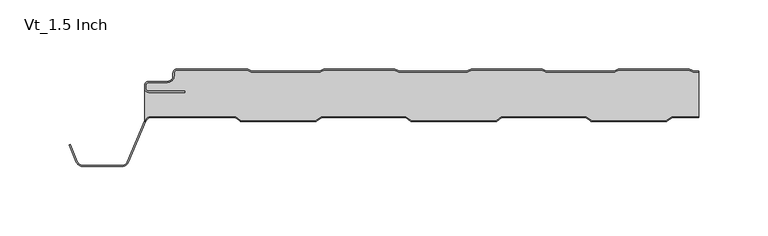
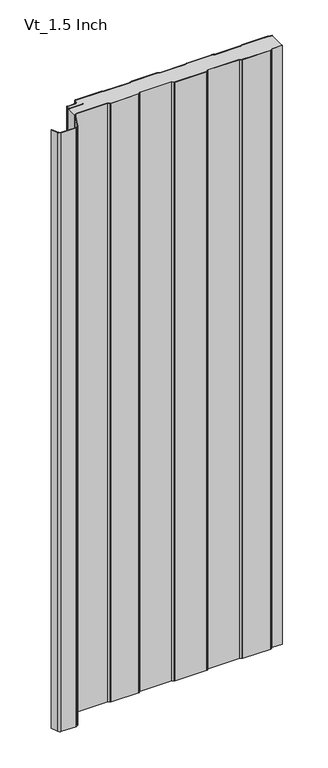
"""IFC4 building model written with IfcOpenShell, lengths in millimetres: plate geometry, AWIP_R18_CP_HR3_Vt_Roof Panel : Vt_1.5 Inch."""

from ifc_helpers import new_model, si_unit, point, frame, frame_2d, origin, origin_with_axes, place, context, project, spatial, polyline, circle_curve, trimmed, segment, composite_curve, outline, extrude, source, transform, mapped, element, save
from ifc_brep_helpers import plane_surface, cylinder_surface, revolved_surface, advanced_brep


def vt_1_5_inch_c299e191(model_context):
    return source(origin(), model_context, "Body", "SolidModel", [
        extrude(outline(composite_curve([segment(polyline([(212.4037368, -1.5), (215.9042607, -1.5), (215.9042607, -2.3), (212.4037368, -2.3)]), True, "CONTINUOUS"), segment(trimmed(circle_curve(frame_2d((212.4037368, 1.0)), 3.3), [point((212.4037368, -2.3))], [point((211.0949824, -2.0293831))], False, "CARTESIAN"), True, "CONTINUOUS"), segment(polyline([(211.0949824, -2.0293831), (208.7048832, -0.9968123)]), True, "CONTINUOUS"), segment(trimmed(circle_curve(frame_2d((207.7530619, -3.2)), 2.4), [point((208.7048832, -0.9968123))], [point((207.7530619, -0.8))], True, "CARTESIAN"), True, "CONTINUOUS"), segment(polyline([(207.7530619, -0.8), (158.8384168, -0.8)]), True, "CONTINUOUS"), segment(trimmed(circle_curve(frame_2d((158.8384168, -3.2)), 2.4), [point((158.8384168, -0.8))], [point((157.8865954, -0.9968123))], True, "CARTESIAN"), True, "CONTINUOUS"), segment(polyline([(157.8865954, -0.9968123), (155.4964962, -2.0293831)]), True, "CONTINUOUS"), segment(trimmed(circle_curve(frame_2d((154.1877419, 1.0)), 3.3), [point((155.4964962, -2.0293831))], [point((154.1877419, -2.3))], False, "CARTESIAN"), True, "CONTINUOUS"), segment(polyline([(154.1877419, -2.3), (105.8037368, -2.3)]), True, "CONTINUOUS"), segment(trimmed(circle_curve(frame_2d((105.8037368, 1.0)), 3.3), [point((105.8037368, -2.3))], [point((104.4949824, -2.0293831))], False, "CARTESIAN"), True, "CONTINUOUS"), segment(polyline([(104.4949824, -2.0293831), (102.1048832, -0.9968123)]), True, "CONTINUOUS"), segment(trimmed(circle_curve(frame_2d((101.1530619, -3.2)), 2.4), [point((102.1048832, -0.9968123))], [point((101.1530619, -0.8))], True, "CARTESIAN"), True, "CONTINUOUS"), segment(polyline([(101.1530619, -0.8), (52.2384168, -0.8)]), True, "CONTINUOUS"), segment(trimmed(circle_curve(frame_2d((52.2384168, -3.2)), 2.4), [point((52.2384168, -0.8))], [point((51.2865954, -0.9968123))], True, "CARTESIAN"), True, "CONTINUOUS"), segment(polyline([(51.2865954, -0.9968123), (48.8964962, -2.0293831)]), True, "CONTINUOUS"), segment(trimmed(circle_curve(frame_2d((47.5877419, 1.0)), 3.3), [point((48.8964962, -2.0293831))], [point((47.5877419, -2.3))], False, "CARTESIAN"), True, "CONTINUOUS"), segment(polyline([(47.5877419, -2.3), (-0.7962632, -2.3)]), True, "CONTINUOUS"), segment(trimmed(circle_curve(frame_2d((-0.7962632, 1.0)), 3.3), [point((-0.7962632, -2.3))], [point((-2.1050176, -2.0293831))], False, "CARTESIAN"), True, "CONTINUOUS"), segment(polyline([(-2.1050176, -2.0293831), (-4.4951168, -0.9968123)]), True, "CONTINUOUS"), segment(trimmed(circle_curve(frame_2d((-5.4469381, -3.2)), 2.4), [point((-4.4951168, -0.9968123))], [point((-5.4469381, -0.8))], True, "CARTESIAN"), True, "CONTINUOUS"), segment(polyline([(-5.4469381, -0.8), (-54.3615832, -0.8)]), True, "CONTINUOUS"), segment(trimmed(circle_curve(frame_2d((-54.3615832, -3.2)), 2.4), [point((-54.3615832, -0.8))], [point((-55.3134046, -0.9968123))], True, "CARTESIAN"), True, "CONTINUOUS"), segment(polyline([(-55.3134046, -0.9968123), (-57.7035038, -2.0293831)]), True, "CONTINUOUS"), segment(trimmed(circle_curve(frame_2d((-59.0122581, 1.0)), 3.3), [point((-57.7035038, -2.0293831))], [point((-59.0122581, -2.3))], False, "CARTESIAN"), True, "CONTINUOUS"), segment(polyline([(-59.0122581, -2.3), (-107.3962632, -2.3)]), True, "CONTINUOUS"), segment(trimmed(circle_curve(frame_2d((-107.3962632, 1.0)), 3.3), [point((-107.3962632, -2.3))], [point((-108.7050176, -2.0293831))], False, "CARTESIAN"), True, "CONTINUOUS"), segment(polyline([(-108.7050176, -2.0293831), (-111.0951168, -0.9968123)]), True, "CONTINUOUS"), segment(trimmed(circle_curve(frame_2d((-112.0469381, -3.2)), 2.4), [point((-111.0951168, -0.9968123))], [point((-112.0469381, -0.8))], True, "CARTESIAN"), True, "CONTINUOUS"), segment(polyline([(-112.0469381, -0.8), (-161.8042607, -0.8)]), True, "CONTINUOUS"), segment(trimmed(circle_curve(frame_2d((-161.8042607, -3.0)), 2.2), [point((-161.8042607, -0.8))], [point((-164.0042607, -3.0))], True, "CARTESIAN"), True, "CONTINUOUS"), segment(polyline([(-164.0042607, -3.0), (-164.0042607, -5.0)]), True, "CONTINUOUS"), segment(trimmed(circle_curve(frame_2d((-168.8042607, -5.0)), 4.8), [point((-164.0042607, -5.0))], [point((-168.8042607, -9.8))], False, "CARTESIAN"), True, "CONTINUOUS"), segment(polyline([(-168.8042607, -9.8), (-182.3200708, -9.8)]), True, "CONTINUOUS"), segment(trimmed(circle_curve(frame_2d((-182.3200708, -12.0)), 2.2), [point((-182.3200708, -9.8))], [point((-184.5200708, -12.0))], True, "CARTESIAN"), True, "CONTINUOUS"), segment(polyline([(-184.5200708, -12.0), (-184.5200708, -14.0)]), True, "CONTINUOUS"), segment(trimmed(circle_curve(frame_2d((-182.3200708, -14.0)), 2.2), [point((-184.5200708, -14.0))], [point((-182.3200708, -16.2))], True, "CARTESIAN"), True, "CONTINUOUS"), segment(polyline([(-182.3200708, -16.2), (-156.3790289, -16.2), (-156.3790289, -17.0), (-182.3200708, -17.0)]), True, "CONTINUOUS"), segment(trimmed(circle_curve(frame_2d((-182.3200708, -14.0)), 3.0), [point((-182.3200708, -17.0))], [point((-185.3200708, -14.0))], False, "CARTESIAN"), True, "CONTINUOUS"), segment(polyline([(-185.3200708, -14.0), (-185.3200708, -12.0)]), True, "CONTINUOUS"), segment(trimmed(circle_curve(frame_2d((-182.3200708, -12.0)), 3.0), [point((-185.3200708, -12.0))], [point((-182.3200708, -9.0))], False, "CARTESIAN"), True, "CONTINUOUS"), segment(polyline([(-182.3200708, -9.0), (-168.8042607, -9.0)]), True, "CONTINUOUS"), segment(trimmed(circle_curve(frame_2d((-168.8042607, -5.0)), 4.0), [point((-168.8042607, -9.0))], [point((-164.8042607, -5.0))], True, "CARTESIAN"), True, "CONTINUOUS"), segment(polyline([(-164.8042607, -5.0), (-164.8042607, -3.0)]), True, "CONTINUOUS"), segment(trimmed(circle_curve(frame_2d((-161.8042607, -3.0)), 3.0), [point((-164.8042607, -3.0))], [point((-161.8042607, 0.0))], False, "CARTESIAN"), True, "CONTINUOUS"), segment(polyline([(-161.8042607, 0.0), (-112.0469381, 0.0)]), True, "CONTINUOUS"), segment(trimmed(circle_curve(frame_2d((-112.0469381, -3.2)), 3.2), [point((-112.0469381, 0.0))], [point((-110.777843, -0.2624164))], False, "CARTESIAN"), True, "CONTINUOUS"), segment(polyline([(-110.777843, -0.2624164), (-108.3877438, -1.2949872)]), True, "CONTINUOUS"), segment(trimmed(circle_curve(frame_2d((-107.3962632, 1.0)), 2.5), [point((-108.3877438, -1.2949872))], [point((-107.3962632, -1.5))], True, "CARTESIAN"), True, "CONTINUOUS"), segment(polyline([(-107.3962632, -1.5), (-59.0122581, -1.5)]), True, "CONTINUOUS"), segment(trimmed(circle_curve(frame_2d((-59.0122581, 1.0)), 2.5), [point((-59.0122581, -1.5))], [point((-58.0207775, -1.2949872))], True, "CARTESIAN"), True, "CONTINUOUS"), segment(polyline([(-58.0207775, -1.2949872), (-55.6306783, -0.2624164)]), True, "CONTINUOUS"), segment(trimmed(circle_curve(frame_2d((-54.3615832, -3.2)), 3.2), [point((-55.6306783, -0.2624164))], [point((-54.3615832, 0.0))], False, "CARTESIAN"), True, "CONTINUOUS"), segment(polyline([(-54.3615832, 0.0), (-5.4469381, 0.0)]), True, "CONTINUOUS"), segment(trimmed(circle_curve(frame_2d((-5.4469381, -3.2)), 3.2), [point((-5.4469381, 0.0))], [point((-4.177843, -0.2624164))], False, "CARTESIAN"), True, "CONTINUOUS"), segment(polyline([(-4.177843, -0.2624164), (-1.7877438, -1.2949872)]), True, "CONTINUOUS"), segment(trimmed(circle_curve(frame_2d((-0.7962632, 1.0)), 2.5), [point((-1.7877438, -1.2949872))], [point((-0.7962632, -1.5))], True, "CARTESIAN"), True, "CONTINUOUS"), segment(polyline([(-0.7962632, -1.5), (47.5877419, -1.5)]), True, "CONTINUOUS"), segment(trimmed(circle_curve(frame_2d((47.5877419, 1.0)), 2.5), [point((47.5877419, -1.5))], [point((48.5792225, -1.2949872))], True, "CARTESIAN"), True, "CONTINUOUS"), segment(polyline([(48.5792225, -1.2949872), (50.9693217, -0.2624164)]), True, "CONTINUOUS"), segment(trimmed(circle_curve(frame_2d((52.2384168, -3.2)), 3.2), [point((50.9693217, -0.2624164))], [point((52.2384168, 0.0))], False, "CARTESIAN"), True, "CONTINUOUS"), segment(polyline([(52.2384168, 0.0), (101.1530619, 0.0)]), True, "CONTINUOUS"), segment(trimmed(circle_curve(frame_2d((101.1530619, -3.2)), 3.2), [point((101.1530619, 0.0))], [point((102.422157, -0.2624164))], False, "CARTESIAN"), True, "CONTINUOUS"), segment(polyline([(102.422157, -0.2624164), (104.8122562, -1.2949872)]), True, "CONTINUOUS"), segment(trimmed(circle_curve(frame_2d((105.8037368, 1.0)), 2.5), [point((104.8122562, -1.2949872))], [point((105.8037368, -1.5))], True, "CARTESIAN"), True, "CONTINUOUS"), segment(polyline([(105.8037368, -1.5), (154.1877419, -1.5)]), True, "CONTINUOUS"), segment(trimmed(circle_curve(frame_2d((154.1877419, 1.0)), 2.5), [point((154.1877419, -1.5))], [point((155.1792225, -1.2949872))], True, "CARTESIAN"), True, "CONTINUOUS"), segment(polyline([(155.1792225, -1.2949872), (157.5693217, -0.2624164)]), True, "CONTINUOUS"), segment(trimmed(circle_curve(frame_2d((158.8384168, -3.2)), 3.2), [point((157.5693217, -0.2624164))], [point((158.8384168, 0.0))], False, "CARTESIAN"), True, "CONTINUOUS"), segment(polyline([(158.8384168, 0.0), (207.7530619, 0.0)]), True, "CONTINUOUS"), segment(trimmed(circle_curve(frame_2d((207.7530619, -3.2)), 3.2), [point((207.7530619, 0.0))], [point((209.022157, -0.2624164))], False, "CARTESIAN"), True, "CONTINUOUS"), segment(polyline([(209.022157, -0.2624164), (211.4122562, -1.2949872)]), True, "CONTINUOUS"), segment(trimmed(circle_curve(frame_2d((212.4037368, 1.0)), 2.5), [point((211.4122562, -1.2949872))], [point((212.4037368, -1.5))], True, "CARTESIAN"), True, "CONTINUOUS")], self_intersect=False)), origin_with_axes(), (0.0, 0.0, 1.0), 1219.2),
        advanced_brep(
        [(-180.6614903, -34.5158802, 1219.2), (-119.8775734, -34.5158802, 1219.2), (-119.1161836, -34.7621793, 1219.2), (-115.604049, -37.2999997, 1219.2), (-61.4011687, -37.2999997, 1219.2), (-57.8890342, -34.7621793, 1219.2), (-57.1276444, -34.5158802, 1219.2), (3.3684818, -34.5158802, 1219.2), (4.1298717, -34.7621793, 1219.2), (7.6420063, -37.2999997, 1219.2), (69.1027521, -37.2999997, 1219.2), (72.6148867, -34.7621794, 1219.2), (73.3762764, -34.5158803, 1219.2), (133.8724069, -34.5158803, 1219.2), (134.6337968, -34.7621795, 1219.2), (138.1459308, -37.2999997, 1219.2), (192.3488119, -37.2999997, 1219.2), (195.8609464, -34.7621794, 1219.2), (196.6223362, -34.5158803, 1219.2), (215.9042607, -34.5158803, 1219.2), (215.9042607, -2.3, 1219.2), (212.4037368, -2.3, 1219.2), (211.0949824, -2.0293831, 1219.2), (208.7048832, -0.9968123, 1219.2), (207.7530619, -0.8, 1219.2), (158.8384168, -0.8, 1219.2), (157.8865954, -0.9968123, 1219.2), (155.4964962, -2.0293831, 1219.2), (154.1877419, -2.3, 1219.2), (105.8037368, -2.3, 1219.2), (104.4949824, -2.0293831, 1219.2), (102.1048832, -0.9968123, 1219.2), (101.1530619, -0.8, 1219.2), (52.2384168, -0.8, 1219.2), (51.2865954, -0.9968123, 1219.2), (48.8964962, -2.0293831, 1219.2), (47.5877419, -2.3, 1219.2), (-0.7962632, -2.3, 1219.2), (-2.1050176, -2.0293831, 1219.2), (-4.4951168, -0.9968123, 1219.2), (-5.4469381, -0.8, 1219.2), (-54.3615832, -0.8, 1219.2), (-55.3134046, -0.9968123, 1219.2), (-57.7035038, -2.0293831, 1219.2), (-59.0122581, -2.3, 1219.2), (-107.3962632, -2.3, 1219.2), (-108.7050176, -2.0293831, 1219.2), (-111.0951168, -0.9968123, 1219.2), (-112.0469381, -0.8, 1219.2), (-161.8042607, -0.8, 1219.2), (-164.0042607, -3.0, 1219.2), (-164.0042607, -5.0, 1219.2), (-168.8042607, -9.8, 1219.2), (-182.3200708, -9.8, 1219.2), (-184.5200708, -12.0, 1219.2), (-184.5200708, -14.0, 1219.2), (-182.3200708, -16.2, 1219.2), (-156.3790289, -16.2, 1219.2), (-156.3790289, -17.0, 1219.2), (-182.3200708, -17.0, 1219.2), (-185.3200708, -14.0, 1219.2), (-185.3370174, -38.2298572, 1219.2), (-180.6614903, -34.5158802, 0.0), (-185.3370174, -38.2298572, 0.0), (-185.3370174, -14.0, 0.0), (-182.3200708, -17.0, 0.0), (-156.3790289, -17.0, 0.0), (-156.3790289, -16.2, 0.0), (-182.3200708, -16.2, 0.0), (-184.5200708, -14.0, 0.0), (-184.5200708, -12.0, 0.0), (-182.3200708, -9.8, 0.0), (-168.8042607, -9.8, 0.0), (-164.0042607, -5.0, 0.0), (-164.0042607, -3.0, 0.0), (-161.8042607, -0.8, 0.0), (-112.0469381, -0.8, 0.0), (-111.0951168, -0.9968123, 0.0), (-108.7050176, -2.0293831, 0.0), (-107.3962632, -2.3, 0.0), (-59.0122581, -2.3, 0.0), (-57.7035038, -2.0293831, 0.0), (-55.3134046, -0.9968123, 0.0), (-54.3615832, -0.8, 0.0), (-5.4469381, -0.8, 0.0), (-4.4951168, -0.9968123, 0.0), (-2.1050176, -2.0293831, 0.0), (-0.7962632, -2.3, 0.0), (47.5877419, -2.3, 0.0), (48.8964962, -2.0293831, 0.0), (51.2865954, -0.9968123, 0.0), (52.2384168, -0.8, 0.0), (101.1530619, -0.8, 0.0), (102.1048832, -0.9968123, 0.0), (104.4949824, -2.0293831, 0.0), (105.8037368, -2.3, 0.0), (154.1877419, -2.3, 0.0), (155.4964962, -2.0293831, 0.0), (157.8865954, -0.9968123, 0.0), (158.8384168, -0.8, 0.0), (207.7530619, -0.8, 0.0), (208.7048832, -0.9968123, 0.0), (211.0949824, -2.0293831, 0.0), (212.4037368, -2.3, 0.0), (215.9042607, -2.3, 0.0), (215.9042607, -34.5158803, 0.0), (196.6223362, -34.5158803, 0.0), (195.8609464, -34.7621794, 0.0), (192.3488119, -37.2999997, 0.0), (138.1459308, -37.2999997, 0.0), (134.6337968, -34.7621795, 0.0), (133.8724069, -34.5158803, 0.0), (73.3762764, -34.5158803, 0.0), (72.6148867, -34.7621794, 0.0), (69.1027521, -37.2999997, 0.0), (7.6420063, -37.2999997, 0.0), (4.1298717, -34.7621793, 0.0), (3.3684818, -34.5158802, 0.0), (-57.1276444, -34.5158802, 0.0), (-57.8890342, -34.7621793, 0.0), (-61.4011687, -37.2999997, 0.0), (-115.604049, -37.2999997, 0.0), (-119.1161836, -34.7621793, 0.0), (-119.8775734, -34.5158802, 0.0)],
        [
            (0, 1),
            (1, 2, circle_curve(frame((-119.8775734, -35.8158802, 1219.2), z_axis=(0.0, 0.0, -1.0), x_axis=(0.0, -1.0, 0.0)), 1.3)),
            (2, 3),
            (3, 4),
            (4, 5),
            (5, 6, circle_curve(frame((-57.1276444, -35.8158802, 1219.2), z_axis=(0.0, 0.0, -1.0), x_axis=(0.0, -1.0, 0.0)), 1.3)),
            (6, 7),
            (7, 8, circle_curve(frame((3.3684818, -35.8158802, 1219.2), z_axis=(0.0, 0.0, -1.0), x_axis=(0.0, -1.0, 0.0)), 1.3)),
            (8, 9),
            (9, 10),
            (10, 11),
            (11, 12, circle_curve(frame((73.3762764, -35.8158801, 1219.2), z_axis=(0.0, 0.0, -1.0), x_axis=(0.0, -1.0, 0.0)), 1.2999998)),
            (12, 13),
            (13, 14, circle_curve(frame((133.8724069, -35.8158803, 1219.2), z_axis=(0.0, 0.0, -1.0), x_axis=(0.0, -1.0, 0.0)), 1.3)),
            (14, 15),
            (15, 16),
            (16, 17),
            (17, 18, circle_curve(frame((196.6223362, -35.8158803, 1219.2), z_axis=(0.0, 0.0, -1.0), x_axis=(0.0, -1.0, 0.0)), 1.3)),
            (18, 19),
            (19, 20),
            (20, 21),
            (21, 22, circle_curve(frame((212.4037368, 1.0, 1219.2), z_axis=(0.0, 0.0, -1.0), x_axis=(0.0, -1.0, 0.0)), 3.3)),
            (22, 23),
            (23, 24, circle_curve(frame((207.7530619, -3.2, 1219.2), z_axis=(0.0, 0.0, 1.0), x_axis=(0.0, -1.0, 0.0)), 2.4)),
            (24, 25),
            (25, 26, circle_curve(frame((158.8384168, -3.2, 1219.2), z_axis=(0.0, 0.0, 1.0), x_axis=(0.0, -1.0, 0.0)), 2.4)),
            (26, 27),
            (27, 28, circle_curve(frame((154.1877419, 1.0, 1219.2), z_axis=(0.0, 0.0, -1.0), x_axis=(0.0, -1.0, 0.0)), 3.3)),
            (28, 29),
            (29, 30, circle_curve(frame((105.8037368, 1.0, 1219.2), z_axis=(0.0, 0.0, -1.0), x_axis=(0.0, -1.0, 0.0)), 3.3)),
            (30, 31),
            (31, 32, circle_curve(frame((101.1530619, -3.2, 1219.2), z_axis=(0.0, 0.0, 1.0), x_axis=(0.0, -1.0, 0.0)), 2.4)),
            (32, 33),
            (33, 34, circle_curve(frame((52.2384168, -3.2, 1219.2), z_axis=(0.0, 0.0, 1.0), x_axis=(0.0, -1.0, 0.0)), 2.4)),
            (34, 35),
            (35, 36, circle_curve(frame((47.5877419, 1.0, 1219.2), z_axis=(0.0, 0.0, -1.0), x_axis=(0.0, -1.0, 0.0)), 3.3)),
            (36, 37),
            (37, 38, circle_curve(frame((-0.7962632, 1.0, 1219.2), z_axis=(0.0, 0.0, -1.0), x_axis=(0.0, -1.0, 0.0)), 3.3)),
            (38, 39),
            (39, 40, circle_curve(frame((-5.4469381, -3.2, 1219.2), z_axis=(0.0, 0.0, 1.0), x_axis=(0.0, -1.0, 0.0)), 2.4)),
            (40, 41),
            (41, 42, circle_curve(frame((-54.3615832, -3.2, 1219.2), z_axis=(0.0, 0.0, 1.0), x_axis=(0.0, -1.0, 0.0)), 2.4)),
            (42, 43),
            (43, 44, circle_curve(frame((-59.0122581, 1.0, 1219.2), z_axis=(0.0, 0.0, -1.0), x_axis=(0.0, -1.0, 0.0)), 3.3)),
            (44, 45),
            (45, 46, circle_curve(frame((-107.3962632, 1.0, 1219.2), z_axis=(0.0, 0.0, -1.0), x_axis=(0.0, -1.0, 0.0)), 3.3)),
            (46, 47),
            (47, 48, circle_curve(frame((-112.0469381, -3.2, 1219.2), z_axis=(0.0, 0.0, 1.0), x_axis=(0.0, -1.0, 0.0)), 2.4)),
            (48, 49),
            (49, 50, circle_curve(frame((-161.8042607, -3.0, 1219.2), z_axis=(0.0, 0.0, 1.0), x_axis=(0.0, -1.0, 0.0)), 2.2)),
            (50, 51),
            (51, 52, circle_curve(frame((-168.8042607, -5.0, 1219.2), z_axis=(0.0, 0.0, -1.0), x_axis=(0.0, -1.0, 0.0)), 4.8)),
            (52, 53),
            (53, 54, circle_curve(frame((-182.3200708, -12.0, 1219.2), z_axis=(0.0, 0.0, 1.0), x_axis=(0.0, -1.0, 0.0)), 2.2)),
            (54, 55),
            (55, 56, circle_curve(frame((-182.3200708, -14.0, 1219.2), z_axis=(0.0, 0.0, 1.0), x_axis=(0.0, -1.0, 0.0)), 2.2)),
            (56, 57),
            (57, 58),
            (58, 59),
            (59, 60, circle_curve(frame((-182.3200708, -14.0, 1219.2), z_axis=(0.0, 0.0, -1.0), x_axis=(0.0, -1.0, 0.0)), 3.0)),
            (60, 61),
            (61, 0, circle_curve(frame((-180.6614903, -39.3158801, 1219.2), z_axis=(0.0, 0.0, -1.0), x_axis=(0.0, -1.0, 0.0)), 4.7999999)),
            (62, 63, circle_curve(frame((-180.6614903, -39.3158801, 0.0), z_axis=(0.0, 0.0, 1.0), x_axis=(0.0, -1.0, 0.0)), 4.7999999)),
            (63, 64),
            (64, 65, circle_curve(frame((-182.3200708, -14.0, 0.0), z_axis=(0.0, 0.0, 1.0), x_axis=(0.0, -1.0, 0.0)), 3.0)),
            (65, 66),
            (66, 67),
            (67, 68),
            (68, 69, circle_curve(frame((-182.3200708, -14.0, 0.0), z_axis=(0.0, 0.0, -1.0), x_axis=(0.0, -1.0, 0.0)), 2.2)),
            (69, 70),
            (70, 71, circle_curve(frame((-182.3200708, -12.0, 0.0), z_axis=(0.0, 0.0, -1.0), x_axis=(0.0, -1.0, 0.0)), 2.2)),
            (71, 72),
            (72, 73, circle_curve(frame((-168.8042607, -5.0, 0.0), z_axis=(0.0, 0.0, 1.0), x_axis=(0.0, -1.0, 0.0)), 4.8)),
            (73, 74),
            (74, 75, circle_curve(frame((-161.8042607, -3.0, 0.0), z_axis=(0.0, 0.0, -1.0), x_axis=(0.0, -1.0, 0.0)), 2.2)),
            (75, 76),
            (76, 77, circle_curve(frame((-112.0469381, -3.2, 0.0), z_axis=(0.0, 0.0, -1.0), x_axis=(0.0, -1.0, 0.0)), 2.4)),
            (77, 78),
            (78, 79, circle_curve(frame((-107.3962632, 1.0, 0.0), z_axis=(0.0, 0.0, 1.0), x_axis=(0.0, -1.0, 0.0)), 3.3)),
            (79, 80),
            (80, 81, circle_curve(frame((-59.0122581, 1.0, 0.0), z_axis=(0.0, 0.0, 1.0), x_axis=(0.0, -1.0, 0.0)), 3.3)),
            (81, 82),
            (82, 83, circle_curve(frame((-54.3615832, -3.2, 0.0), z_axis=(0.0, 0.0, -1.0), x_axis=(0.0, -1.0, 0.0)), 2.4)),
            (83, 84),
            (84, 85, circle_curve(frame((-5.4469381, -3.2, 0.0), z_axis=(0.0, 0.0, -1.0), x_axis=(0.0, -1.0, 0.0)), 2.4)),
            (85, 86),
            (86, 87, circle_curve(frame((-0.7962632, 1.0, 0.0), z_axis=(0.0, 0.0, 1.0), x_axis=(0.0, -1.0, 0.0)), 3.3)),
            (87, 88),
            (88, 89, circle_curve(frame((47.5877419, 1.0, 0.0), z_axis=(0.0, 0.0, 1.0), x_axis=(0.0, -1.0, 0.0)), 3.3)),
            (89, 90),
            (90, 91, circle_curve(frame((52.2384168, -3.2, 0.0), z_axis=(0.0, 0.0, -1.0), x_axis=(0.0, -1.0, 0.0)), 2.4)),
            (91, 92),
            (92, 93, circle_curve(frame((101.1530619, -3.2, 0.0), z_axis=(0.0, 0.0, -1.0), x_axis=(0.0, -1.0, 0.0)), 2.4)),
            (93, 94),
            (94, 95, circle_curve(frame((105.8037368, 1.0, 0.0), z_axis=(0.0, 0.0, 1.0), x_axis=(0.0, -1.0, 0.0)), 3.3)),
            (95, 96),
            (96, 97, circle_curve(frame((154.1877419, 1.0, 0.0), z_axis=(0.0, 0.0, 1.0), x_axis=(0.0, -1.0, 0.0)), 3.3)),
            (97, 98),
            (98, 99, circle_curve(frame((158.8384168, -3.2, 0.0), z_axis=(0.0, 0.0, -1.0), x_axis=(0.0, -1.0, 0.0)), 2.4)),
            (99, 100),
            (100, 101, circle_curve(frame((207.7530619, -3.2, 0.0), z_axis=(0.0, 0.0, -1.0), x_axis=(0.0, -1.0, 0.0)), 2.4)),
            (101, 102),
            (102, 103, circle_curve(frame((212.4037368, 1.0, 0.0), z_axis=(0.0, 0.0, 1.0), x_axis=(0.0, -1.0, 0.0)), 3.3)),
            (103, 104),
            (104, 105),
            (105, 106),
            (106, 107, circle_curve(frame((196.6223362, -35.8158803, 0.0), z_axis=(0.0, 0.0, 1.0), x_axis=(0.0, -1.0, 0.0)), 1.3)),
            (107, 108),
            (108, 109),
            (109, 110),
            (110, 111, circle_curve(frame((133.8724069, -35.8158803, 0.0), z_axis=(0.0, 0.0, 1.0), x_axis=(0.0, -1.0, 0.0)), 1.3)),
            (111, 112),
            (112, 113, circle_curve(frame((73.3762764, -35.8158801, 0.0), z_axis=(0.0, 0.0, 1.0), x_axis=(0.0, -1.0, 0.0)), 1.2999998)),
            (113, 114),
            (114, 115),
            (115, 116),
            (116, 117, circle_curve(frame((3.3684818, -35.8158802, 0.0), z_axis=(0.0, 0.0, 1.0), x_axis=(0.0, -1.0, 0.0)), 1.3)),
            (117, 118),
            (118, 119, circle_curve(frame((-57.1276444, -35.8158802, 0.0), z_axis=(0.0, 0.0, 1.0), x_axis=(0.0, -1.0, 0.0)), 1.3)),
            (119, 120),
            (120, 121),
            (121, 122),
            (122, 123, circle_curve(frame((-119.8775734, -35.8158802, 0.0), z_axis=(0.0, 0.0, 1.0), x_axis=(0.0, -1.0, 0.0)), 1.3)),
            (123, 62),
            (19, 105),
            (104, 20),
            (61, 63),
            (62, 0),
            (60, 64),
            (59, 65),
            (58, 66),
            (57, 67),
            (56, 68),
            (55, 69),
            (54, 70),
            (53, 71),
            (52, 72),
            (51, 73),
            (50, 74),
            (49, 75),
            (48, 76),
            (47, 77),
            (46, 78),
            (45, 79),
            (44, 80),
            (43, 81),
            (42, 82),
            (41, 83),
            (40, 84),
            (39, 85),
            (38, 86),
            (37, 87),
            (36, 88),
            (35, 89),
            (34, 90),
            (33, 91),
            (32, 92),
            (31, 93),
            (30, 94),
            (29, 95),
            (28, 96),
            (27, 97),
            (26, 98),
            (25, 99),
            (24, 100),
            (23, 101),
            (22, 102),
            (21, 103),
            (18, 106),
            (17, 107),
            (16, 108),
            (15, 109),
            (14, 110),
            (13, 111),
            (12, 112),
            (11, 113),
            (10, 114),
            (9, 115),
            (8, 116),
            (7, 117),
            (6, 118),
            (5, 119),
            (4, 120),
            (3, 121),
            (2, 122),
            (1, 123),
        ],
        [
            plane_surface(frame((292.0957393, -0.8, 1219.2), z_axis=(0.0, 0.0, 1.0), x_axis=(0.0, -1.0, 0.0))),
            plane_surface(frame((292.0957393, -0.8, 0.0), z_axis=(0.0, 0.0, -1.0), x_axis=(0.0, -1.0, 0.0))),
            plane_surface(frame((215.9042607, -103.1, 1219.2), z_axis=(1.0, 0.0, 0.0), x_axis=(0.0, 0.0, -1.0))),
            revolved_surface(polyline([(-180.6614903, -44.115880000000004, 0.0), (-180.6614903, -44.115880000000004, 1219.2)]), (-180.6614903, -39.3158801, 1219.2), (0.0, 0.0, -1.0)),
            plane_surface(frame((-185.3370174, -38.2298572, 1219.2), z_axis=(-1.0, 0.0, 0.0), x_axis=(0.0, 0.0, -1.0))),
            revolved_surface(polyline([(-182.3200708, -17.0, 0.0), (-182.3200708, -17.0, 1219.2)]), (-182.3200708, -14.0, 1219.2), (0.0, 0.0, -1.0)),
            plane_surface(frame((-182.3200708, -17.0, 1219.2), z_axis=(0.0, 1.0, 0.0), x_axis=(0.0, 0.0, -1.0))),
            plane_surface(frame((-156.3790289, -17.0, 1219.2), z_axis=(-1.0, 0.0, 0.0), x_axis=(0.0, 0.0, -1.0))),
            plane_surface(frame((-156.3790289, -16.2, 1219.2), z_axis=(0.0, -1.0, 0.0), x_axis=(0.0, 0.0, -1.0))),
            cylinder_surface(frame((-182.3200708, -14.0, 1219.2), z_axis=(0.0, 0.0, 1.0), x_axis=(0.0, -1.0, 0.0)), 2.2),
            plane_surface(frame((-184.5200708, -14.0, 1219.2), z_axis=(-1.0, 0.0, 0.0), x_axis=(0.0, 0.0, -1.0))),
            cylinder_surface(frame((-182.3200708, -12.0, 1219.2), z_axis=(0.0, 0.0, 1.0), x_axis=(0.0, -1.0, 0.0)), 2.2),
            plane_surface(frame((-182.3200708, -9.8, 1219.2), z_axis=(0.0, 1.0, 0.0), x_axis=(0.0, 0.0, -1.0))),
            revolved_surface(polyline([(-168.8042607, -9.8, 0.0), (-168.8042607, -9.8, 1219.2)]), (-168.8042607, -5.0, 1219.2), (0.0, 0.0, -1.0)),
            plane_surface(frame((-164.0042607, -5.0, 1219.2), z_axis=(-1.0, 0.0, 0.0), x_axis=(0.0, 0.0, -1.0))),
            cylinder_surface(frame((-161.8042607, -3.0, 1219.2), z_axis=(0.0, 0.0, 1.0), x_axis=(0.0, -1.0, 0.0)), 2.2),
            plane_surface(frame((-161.8042607, -0.8, 1219.2), z_axis=(0.0, 1.0, 0.0), x_axis=(0.0, 0.0, -1.0))),
            cylinder_surface(frame((-112.0469381, -3.2, 1219.2), z_axis=(0.0, 0.0, 1.0), x_axis=(0.0, -1.0, 0.0)), 2.4),
            plane_surface(frame((-111.0951168, -0.9968123, 1219.2), z_axis=(0.39659222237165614, 0.9179948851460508, 0.0), x_axis=(0.0, 0.0, -1.0))),
            revolved_surface(polyline([(-107.3962632, -2.3, 0.0), (-107.3962632, -2.3, 1219.2)]), (-107.3962632, 1.0, 1219.2), (0.0, 0.0, -1.0)),
            plane_surface(frame((-107.3962632, -2.3, 1219.2), z_axis=(0.0, 1.0, 0.0), x_axis=(0.0, 0.0, -1.0))),
            revolved_surface(polyline([(-59.0122581, -2.3, 0.0), (-59.0122581, -2.3, 1219.2)]), (-59.0122581, 1.0, 1219.2), (0.0, 0.0, -1.0)),
            plane_surface(frame((-57.7035038, -2.0293831, 1219.2), z_axis=(-0.396592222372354, 0.9179948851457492, 0.0), x_axis=(0.0, 0.0, -1.0))),
            cylinder_surface(frame((-54.3615832, -3.2, 1219.2), z_axis=(0.0, 0.0, 1.0), x_axis=(0.0, -1.0, 0.0)), 2.4),
            plane_surface(frame((-54.3615832, -0.8, 1219.2), z_axis=(0.0, 1.0, 0.0), x_axis=(0.0, 0.0, -1.0))),
            cylinder_surface(frame((-5.4469381, -3.2, 1219.2), z_axis=(0.0, 0.0, 1.0), x_axis=(0.0, -1.0, 0.0)), 2.4),
            plane_surface(frame((-4.4951168, -0.9968123, 1219.2), z_axis=(0.39659222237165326, 0.9179948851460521, 0.0), x_axis=(0.0, 0.0, -1.0))),
            revolved_surface(polyline([(-0.7962632, -2.3, 0.0), (-0.7962632, -2.3, 1219.2)]), (-0.7962632, 1.0, 1219.2), (0.0, 0.0, -1.0)),
            plane_surface(frame((-0.7962632, -2.3, 1219.2), z_axis=(0.0, 1.0, 0.0), x_axis=(0.0, 0.0, -1.0))),
            revolved_surface(polyline([(47.5877419, -2.3, 0.0), (47.5877419, -2.3, 1219.2)]), (47.5877419, 1.0, 1219.2), (0.0, 0.0, -1.0)),
            plane_surface(frame((48.8964962, -2.0293831, 1219.2), z_axis=(-0.39659222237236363, 0.9179948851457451, 0.0), x_axis=(0.0, 0.0, -1.0))),
            cylinder_surface(frame((52.2384168, -3.2, 1219.2), z_axis=(0.0, 0.0, 1.0), x_axis=(0.0, -1.0, 0.0)), 2.4),
            plane_surface(frame((52.2384168, -0.8, 1219.2), z_axis=(0.0, 1.0, 0.0), x_axis=(0.0, 0.0, -1.0))),
            cylinder_surface(frame((101.1530619, -3.2, 1219.2), z_axis=(0.0, 0.0, 1.0), x_axis=(0.0, -1.0, 0.0)), 2.4),
            plane_surface(frame((102.1048832, -0.9968123, 1219.2), z_axis=(0.3965922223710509, 0.9179948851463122, 0.0), x_axis=(0.0, 0.0, -1.0))),
            revolved_surface(polyline([(105.8037368, -2.3, 0.0), (105.8037368, -2.3, 1219.2)]), (105.8037368, 1.0, 1219.2), (0.0, 0.0, -1.0)),
            plane_surface(frame((105.8037368, -2.3, 1219.2), z_axis=(0.0, 1.0, 0.0), x_axis=(0.0, 0.0, -1.0))),
            revolved_surface(polyline([(154.1877419, -2.3, 0.0), (154.1877419, -2.3, 1219.2)]), (154.1877419, 1.0, 1219.2), (0.0, 0.0, -1.0)),
            plane_surface(frame((155.4964962, -2.0293831, 1219.2), z_axis=(-0.39659222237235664, 0.9179948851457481, 0.0), x_axis=(0.0, 0.0, -1.0))),
            cylinder_surface(frame((158.8384168, -3.2, 1219.2), z_axis=(0.0, 0.0, 1.0), x_axis=(0.0, -1.0, 0.0)), 2.4),
            plane_surface(frame((158.8384168, -0.8, 1219.2), z_axis=(0.0, 1.0, 0.0), x_axis=(0.0, 0.0, -1.0))),
            cylinder_surface(frame((207.7530619, -3.2, 1219.2), z_axis=(0.0, 0.0, 1.0), x_axis=(0.0, -1.0, 0.0)), 2.4),
            plane_surface(frame((208.7048832, -0.9968123, 1219.2), z_axis=(0.39659222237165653, 0.9179948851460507, 0.0), x_axis=(0.0, 0.0, -1.0))),
            revolved_surface(polyline([(212.4037368, -2.3, 0.0), (212.4037368, -2.3, 1219.2)]), (212.4037368, 1.0, 1219.2), (0.0, 0.0, -1.0)),
            plane_surface(frame((212.4037368, -2.3, 1219.2), z_axis=(0.0, 1.0, 0.0), x_axis=(0.0, 0.0, -1.0))),
            plane_surface(frame((257.1184818, -34.5158803, 1219.2), z_axis=(0.0, -1.0, 0.0), x_axis=(0.0, 0.0, -1.0))),
            revolved_surface(polyline([(196.6223362, -37.1158803, 0.0), (196.6223362, -37.1158803, 1219.2)]), (196.6223362, -35.8158803, 1219.2), (0.0, 0.0, -1.0)),
            plane_surface(frame((195.8609464, -34.7621794, 1219.2), z_axis=(0.5856844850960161, -0.8105391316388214, 0.0), x_axis=(0.0, 0.0, -1.0))),
            plane_surface(frame((192.3488119, -37.2999997, 1219.2), z_axis=(0.0, -1.0, 0.0), x_axis=(0.0, 0.0, -1.0))),
            plane_surface(frame((138.1459308, -37.2999997, 1219.2), z_axis=(-0.585684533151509, -0.8105390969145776, 0.0), x_axis=(0.0, 0.0, -1.0))),
            revolved_surface(polyline([(133.8724069, -37.1158803, 0.0), (133.8724069, -37.1158803, 1219.2)]), (133.8724069, -35.8158803, 1219.2), (0.0, 0.0, -1.0)),
            plane_surface(frame((133.8724069, -34.5158803, 1219.2), z_axis=(0.0, -1.0, 0.0), x_axis=(0.0, 0.0, -1.0))),
            revolved_surface(polyline([(73.3762764, -37.1158799, 0.0), (73.3762764, -37.1158799, 1219.2)]), (73.3762764, -35.8158801, 1219.2), (0.0, 0.0, -1.0)),
            plane_surface(frame((72.6148867, -34.7621794, 1219.2), z_axis=(0.5856844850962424, -0.8105391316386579, 0.0), x_axis=(0.0, 0.0, -1.0))),
            plane_surface(frame((69.1027521, -37.2999997, 1219.2), z_axis=(0.0, -1.0, 0.0), x_axis=(0.0, 0.0, -1.0))),
            plane_surface(frame((7.6420063, -37.2999997, 1219.2), z_axis=(-0.5856844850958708, -0.8105391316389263, 0.0), x_axis=(0.0, 0.0, -1.0))),
            revolved_surface(polyline([(3.3684818, -37.1158802, 0.0), (3.3684818, -37.1158802, 1219.2)]), (3.3684818, -35.8158802, 1219.2), (0.0, 0.0, -1.0)),
            plane_surface(frame((3.3684818, -34.5158802, 1219.2), z_axis=(0.0, -1.0, 0.0), x_axis=(0.0, 0.0, -1.0))),
            revolved_surface(polyline([(-57.1276444, -37.1158802, 0.0), (-57.1276444, -37.1158802, 1219.2)]), (-57.1276444, -35.8158802, 1219.2), (0.0, 0.0, -1.0)),
            plane_surface(frame((-57.8890342, -34.7621793, 1219.2), z_axis=(0.5856844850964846, -0.8105391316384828, 0.0), x_axis=(0.0, 0.0, -1.0))),
            plane_surface(frame((-61.4011687, -37.2999997, 1219.2), z_axis=(0.0, -1.0, 0.0), x_axis=(0.0, 0.0, -1.0))),
            plane_surface(frame((-115.604049, -37.2999997, 1219.2), z_axis=(-0.5856844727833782, -0.8105391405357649, 0.0), x_axis=(0.0, 0.0, -1.0))),
            revolved_surface(polyline([(-119.8775734, -37.1158802, 0.0), (-119.8775734, -37.1158802, 1219.2)]), (-119.8775734, -35.8158802, 1219.2), (0.0, 0.0, -1.0)),
            plane_surface(frame((-119.8775734, -34.5158802, 1219.2), z_axis=(0.0, -1.0, 0.0), x_axis=(0.0, 0.0, -1.0))),
        ],
        [
            (0, [[1, 2, 3, 4, 5, 6, 7, 8, 9, 10, 11, 12, 13, 14, 15, 16, 17, 18, 19, 20, 21, 22, 23, 24, 25, 26, 27, 28, 29, 30, 31, 32, 33, 34, 35, 36, 37, 38, 39, 40, 41, 42, 43, 44, 45, 46, 47, 48, 49, 50, 51, 52, 53, 54, 55, 56, 57, 58, 59, 60, 61, 62]]),
            (1, [[63, 64, 65, 66, 67, 68, 69, 70, 71, 72, 73, 74, 75, 76, 77, 78, 79, 80, 81, 82, 83, 84, 85, 86, 87, 88, 89, 90, 91, 92, 93, 94, 95, 96, 97, 98, 99, 100, 101, 102, 103, 104, 105, 106, 107, 108, 109, 110, 111, 112, 113, 114, 115, 116, 117, 118, 119, 120, 121, 122, 123, 124]]),
            (2, [[125, -105, 126, -20]]),
            (3, [[127, -63, 128, -62]]),
            (4, [[129, -64, -127, -61]]),
            (5, [[130, -65, -129, -60]]),
            (6, [[131, -66, -130, -59]]),
            (7, [[132, -67, -131, -58]]),
            (8, [[133, -68, -132, -57]]),
            (9, [[134, -69, -133, -56]]),
            (10, [[135, -70, -134, -55]]),
            (11, [[136, -71, -135, -54]]),
            (12, [[137, -72, -136, -53]]),
            (13, [[138, -73, -137, -52]]),
            (14, [[139, -74, -138, -51]]),
            (15, [[140, -75, -139, -50]]),
            (16, [[141, -76, -140, -49]]),
            (17, [[142, -77, -141, -48]]),
            (18, [[143, -78, -142, -47]]),
            (19, [[144, -79, -143, -46]]),
            (20, [[145, -80, -144, -45]]),
            (21, [[146, -81, -145, -44]]),
            (22, [[147, -82, -146, -43]]),
            (23, [[148, -83, -147, -42]]),
            (24, [[149, -84, -148, -41]]),
            (25, [[150, -85, -149, -40]]),
            (26, [[151, -86, -150, -39]]),
            (27, [[152, -87, -151, -38]]),
            (28, [[153, -88, -152, -37]]),
            (29, [[154, -89, -153, -36]]),
            (30, [[155, -90, -154, -35]]),
            (31, [[156, -91, -155, -34]]),
            (32, [[157, -92, -156, -33]]),
            (33, [[158, -93, -157, -32]]),
            (34, [[159, -94, -158, -31]]),
            (35, [[160, -95, -159, -30]]),
            (36, [[161, -96, -160, -29]]),
            (37, [[162, -97, -161, -28]]),
            (38, [[163, -98, -162, -27]]),
            (39, [[164, -99, -163, -26]]),
            (40, [[165, -100, -164, -25]]),
            (41, [[166, -101, -165, -24]]),
            (42, [[167, -102, -166, -23]]),
            (43, [[168, -103, -167, -22]]),
            (44, [[-21, -126, -104, -168]]),
            (45, [[-106, -125, -19, 169]]),
            (46, [[170, -107, -169, -18]]),
            (47, [[171, -108, -170, -17]]),
            (48, [[172, -109, -171, -16]]),
            (49, [[173, -110, -172, -15]]),
            (50, [[174, -111, -173, -14]]),
            (51, [[175, -112, -174, -13]]),
            (52, [[176, -113, -175, -12]]),
            (53, [[177, -114, -176, -11]]),
            (54, [[178, -115, -177, -10]]),
            (55, [[179, -116, -178, -9]]),
            (56, [[180, -117, -179, -8]]),
            (57, [[181, -118, -180, -7]]),
            (58, [[182, -119, -181, -6]]),
            (59, [[183, -120, -182, -5]]),
            (60, [[184, -121, -183, -4]]),
            (61, [[185, -122, -184, -3]]),
            (62, [[186, -123, -185, -2]]),
            (63, [[-128, -124, -186, -1]]),
        ],
    ),
        extrude(outline(composite_curve([segment(polyline([(-119.1161836, -34.7621793), (-115.604049, -37.2999997), (-61.4011687, -37.2999997), (-57.8890342, -34.7621793)]), True, "CONTINUOUS"), segment(trimmed(circle_curve(frame_2d((-57.1276444, -35.8158802)), 1.3), [point((-57.8890342, -34.7621793))], [point((-57.1276444, -34.5158802))], False, "CARTESIAN"), True, "CONTINUOUS"), segment(polyline([(-57.1276444, -34.5158802), (3.3684818, -34.5158802)]), True, "CONTINUOUS"), segment(trimmed(circle_curve(frame_2d((3.3684818, -35.8158802)), 1.3), [point((3.3684818, -34.5158802))], [point((4.1298717, -34.7621793))], False, "CARTESIAN"), True, "CONTINUOUS"), segment(polyline([(4.1298717, -34.7621793), (7.6420063, -37.2999997), (69.1027521, -37.2999997), (72.6148867, -34.7621794)]), True, "CONTINUOUS"), segment(trimmed(circle_curve(frame_2d((73.3762764, -35.8158801)), 1.2999998), [point((72.6148867, -34.7621794))], [point((73.3762764, -34.5158803))], False, "CARTESIAN"), True, "CONTINUOUS"), segment(polyline([(73.3762764, -34.5158803), (133.8724069, -34.5158803)]), True, "CONTINUOUS"), segment(trimmed(circle_curve(frame_2d((133.8724069, -35.8158803)), 1.3), [point((133.8724069, -34.5158803))], [point((134.6337968, -34.7621795))], False, "CARTESIAN"), True, "CONTINUOUS"), segment(polyline([(134.6337968, -34.7621795), (138.1459308, -37.2999997), (192.3488119, -37.2999997), (195.8609464, -34.7621794)]), True, "CONTINUOUS"), segment(trimmed(circle_curve(frame_2d((196.6223362, -35.8158803)), 1.3), [point((195.8609464, -34.7621794))], [point((196.6223362, -34.5158803))], False, "CARTESIAN"), True, "CONTINUOUS"), segment(polyline([(196.6223362, -34.5158803), (215.9042607, -34.5158803), (215.9042607, -35.3158801), (196.4605931, -35.3158801), (193.0008983, -37.8158084)]), True, "CONTINUOUS"), segment(trimmed(circle_curve(frame_2d((192.1223715, -36.5999997)), 1.5), [point((193.0008983, -37.8158084))], [point((192.1223715, -38.0999997))], False, "CARTESIAN"), True, "CONTINUOUS"), segment(polyline([(192.1223715, -38.0999997), (138.3723716, -38.1)]), True, "CONTINUOUS"), segment(trimmed(circle_curve(frame_2d((138.3723716, -36.5999997)), 1.5000003), [point((138.3723716, -38.1))], [point((137.4938446, -37.8158086))], False, "CARTESIAN"), True, "CONTINUOUS"), segment(polyline([(137.4938446, -37.8158086), (134.03415, -35.3158803), (73.2145333, -35.3158803), (69.7548385, -37.8158084)]), True, "CONTINUOUS"), segment(trimmed(circle_curve(frame_2d((68.8763118, -36.5999997)), 1.5), [point((69.7548385, -37.8158084))], [point((68.8753404, -38.0999994))], False, "CARTESIAN"), True, "CONTINUOUS"), segment(polyline([(68.8753404, -38.0999994), (7.8684462, -38.0999994)]), True, "CONTINUOUS"), segment(trimmed(circle_curve(frame_2d((7.8684462, -36.5999994)), 1.5), [point((7.8684462, -38.0999994))], [point((6.9899195, -37.8158081))], False, "CARTESIAN"), True, "CONTINUOUS"), segment(polyline([(6.9899195, -37.8158081), (3.5302251, -35.3158803), (-57.2893875, -35.3158803), (-60.7490824, -37.8158084)]), True, "CONTINUOUS"), segment(trimmed(circle_curve(frame_2d((-61.6276091, -36.5999997)), 1.5), [point((-60.7490824, -37.8158084))], [point((-61.6285805, -38.0999994))], False, "CARTESIAN"), True, "CONTINUOUS"), segment(polyline([(-61.6285805, -38.0999994), (-115.3776091, -38.0999994)]), True, "CONTINUOUS"), segment(trimmed(circle_curve(frame_2d((-115.3776091, -36.5999994)), 1.4999999), [point((-115.3776091, -38.0999994))], [point((-116.2561357, -37.8158081))], False, "CARTESIAN"), True, "CONTINUOUS"), segment(polyline([(-116.2561357, -37.8158081), (-119.7158301, -35.3158804), (-180.6614903, -35.3158804)]), True, "CONTINUOUS"), segment(trimmed(circle_curve(frame_2d((-180.6614903, -39.3158801)), 3.9999997), [point((-180.6614903, -35.3158804))], [point((-184.3435202, -37.7529809))], True, "CARTESIAN"), True, "CONTINUOUS"), segment(polyline([(-184.3435202, -37.7529809), (-197.0845357, -67.7695045)]), True, "CONTINUOUS"), segment(trimmed(circle_curve(frame_2d((-201.6870734, -65.8158804)), 5.0), [point((-197.0845357, -67.7695045))], [point((-201.6870734, -70.8158804))], False, "CARTESIAN"), True, "CONTINUOUS"), segment(polyline([(-201.6870734, -70.8158804), (-230.0681655, -70.8158804)]), True, "CONTINUOUS"), segment(trimmed(circle_curve(frame_2d((-230.0681655, -65.8158804)), 5.0), [point((-230.0681655, -70.8158804))], [point((-234.6707048, -67.7695006))], False, "CARTESIAN"), True, "CONTINUOUS"), segment(polyline([(-234.6707048, -67.7695006), (-240.0199293, -55.1672482), (-239.283523, -54.854669), (-233.9342985, -67.4569214)]), True, "CONTINUOUS"), segment(trimmed(circle_curve(frame_2d((-230.0681655, -65.8158804)), 4.2), [point((-233.9342985, -67.4569214))], [point((-230.0681655, -70.0158804))], True, "CARTESIAN"), True, "CONTINUOUS"), segment(polyline([(-230.0681655, -70.0158804), (-201.6870734, -70.0158804)]), True, "CONTINUOUS"), segment(trimmed(circle_curve(frame_2d((-201.6870734, -65.8158804)), 4.2), [point((-201.6870734, -70.0158804))], [point((-197.8209418, -67.4569246))], True, "CARTESIAN"), True, "CONTINUOUS"), segment(polyline([(-197.8209418, -67.4569246), (-185.0799264, -37.440401)]), True, "CONTINUOUS"), segment(trimmed(circle_curve(frame_2d((-180.6614903, -39.3158801)), 4.7999999), [point((-185.0799264, -37.440401))], [point((-180.6614903, -34.5158802))], False, "CARTESIAN"), True, "CONTINUOUS"), segment(polyline([(-180.6614903, -34.5158802), (-119.8775734, -34.5158802)]), True, "CONTINUOUS"), segment(trimmed(circle_curve(frame_2d((-119.8775734, -35.8158802)), 1.3), [point((-119.8775734, -34.5158802))], [point((-119.1161836, -34.7621793))], False, "CARTESIAN"), True, "CONTINUOUS")], self_intersect=False)), origin_with_axes(), (0.0, 0.0, 1.0), 1219.2),
    ])


if __name__ == "__main__":
    model = new_model("IFC4")
    model_context = context("Model", 3, world=origin())
    ifc_project = project(units=[si_unit("LENGTHUNIT", "METRE", prefix="MILLI")], contexts=[model_context])
    site = spatial("IfcSite", under=ifc_project)
    building = spatial("IfcBuilding", under=site)
    placement = place(None, origin())
    vt_1_5_inch_shape = vt_1_5_inch_c299e191(model_context)
    element("IfcPlate", 1, ObjectType="AWIP_R18_CP_HR3_Vt_Roof Panel : Vt_1.5 Inch", at=placement, inside=building, context=model_context, shape_type="MappedRepresentation", body=[
        mapped(vt_1_5_inch_shape, transform((0.0, 0.0, 0.0), x_axis=(1.0, 0.0, 0.0), y_axis=(0.0, 1.0, 0.0), z_axis=(0.0, 0.0, 1.0))),
    ])
    save(model, "model.ifc")
